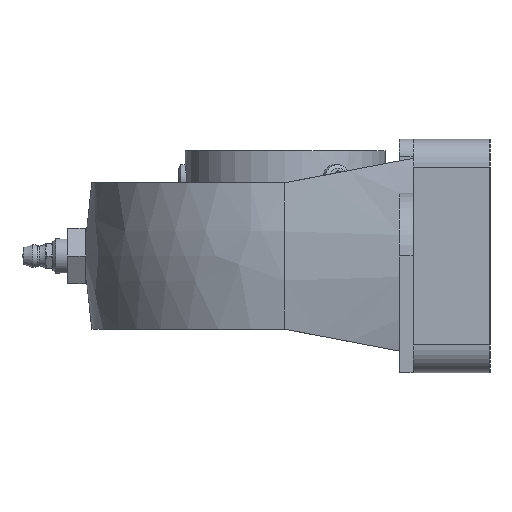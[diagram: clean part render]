
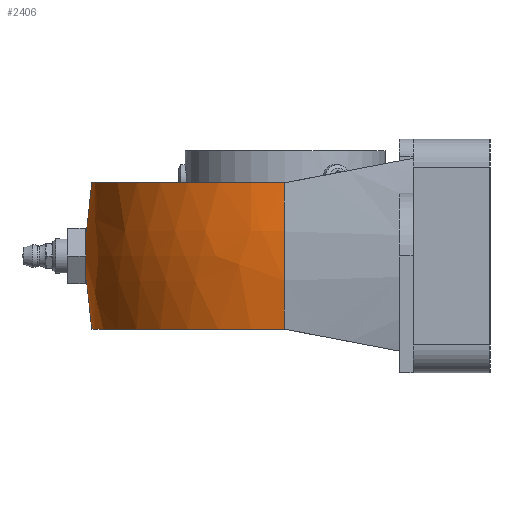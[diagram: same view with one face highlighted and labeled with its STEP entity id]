
A CAD part, left-side view. The second image highlights one B-rep face of the part: STEP entity #2406.
In plain terms, the highlighted free-form (B-spline) face has degree [2, 2] with [3, 5] control points.
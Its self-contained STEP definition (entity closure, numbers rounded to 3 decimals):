
#153=CARTESIAN_POINT('',(0.,57.224,4.188));
#154=VERTEX_POINT('',#153);
#155=CARTESIAN_POINT('',(0.,57.224,4.188));
#156=CARTESIAN_POINT('',(-0.021,57.224,4.188));
#157=CARTESIAN_POINT('',(-0.042,57.224,4.188));
#158=CARTESIAN_POINT('',(-0.099,57.224,4.187));
#159=CARTESIAN_POINT('',(-0.135,57.224,4.186));
#160=CARTESIAN_POINT('',(-0.246,57.224,4.181));
#161=CARTESIAN_POINT('',(-0.321,57.224,4.176));
#162=CARTESIAN_POINT('',(-0.848,57.222,4.126));
#163=CARTESIAN_POINT('',(-1.29,57.218,4.01));
#164=CARTESIAN_POINT('',(-2.082,57.206,3.657));
#165=CARTESIAN_POINT('',(-2.432,57.199,3.434));
#166=CARTESIAN_POINT('',(-3.149,57.181,2.812));
#167=CARTESIAN_POINT('',(-3.484,57.171,2.386));
#168=CARTESIAN_POINT('',(-3.98,57.155,1.415));
#169=CARTESIAN_POINT('',(-4.132,57.149,0.878));
#170=CARTESIAN_POINT('',(-4.216,57.146,-0.199));
#171=CARTESIAN_POINT('',(-4.158,57.148,-0.728));
#172=CARTESIAN_POINT('',(-3.858,57.159,-1.701));
#173=CARTESIAN_POINT('',(-3.633,57.166,-2.141));
#174=CARTESIAN_POINT('',(-3.064,57.183,-2.89));
#175=CARTESIAN_POINT('',(-2.737,57.192,-3.201));
#176=CARTESIAN_POINT('',(-2.045,57.206,-3.675));
#177=CARTESIAN_POINT('',(-1.694,57.212,-3.85));
#178=CARTESIAN_POINT('',(-1.114,57.219,-4.043));
#179=CARTESIAN_POINT('',(-0.899,57.221,-4.096));
#180=CARTESIAN_POINT('',(-0.538,57.223,-4.156));
#181=CARTESIAN_POINT('',(-0.393,57.224,-4.172));
#182=CARTESIAN_POINT('',(-0.201,57.224,-4.183));
#183=CARTESIAN_POINT('',(-0.154,57.224,-4.185));
#184=CARTESIAN_POINT('',(-0.077,57.224,-4.187));
#185=CARTESIAN_POINT('',(-0.047,57.224,-4.188));
#186=CARTESIAN_POINT('',(0.011,57.224,-4.188));
#187=CARTESIAN_POINT('',(0.039,57.224,-4.188));
#188=CARTESIAN_POINT('',(0.103,57.224,-4.187));
#189=CARTESIAN_POINT('',(0.14,57.224,-4.186));
#190=CARTESIAN_POINT('',(0.255,57.224,-4.181));
#191=CARTESIAN_POINT('',(0.333,57.224,-4.175));
#192=CARTESIAN_POINT('',(0.924,57.222,-4.117));
#193=CARTESIAN_POINT('',(1.423,57.216,-3.972));
#194=CARTESIAN_POINT('',(2.259,57.202,-3.552));
#195=CARTESIAN_POINT('',(2.604,57.195,-3.307));
#196=CARTESIAN_POINT('',(3.296,57.177,-2.639));
#197=CARTESIAN_POINT('',(3.61,57.167,-2.192));
#198=CARTESIAN_POINT('',(4.053,57.152,-1.19));
#199=CARTESIAN_POINT('',(4.175,57.147,-0.644));
#200=CARTESIAN_POINT('',(4.198,57.146,0.431));
#201=CARTESIAN_POINT('',(4.112,57.15,0.951));
#202=CARTESIAN_POINT('',(3.766,57.162,1.896));
#203=CARTESIAN_POINT('',(3.521,57.17,2.319));
#204=CARTESIAN_POINT('',(2.925,57.187,3.03));
#205=CARTESIAN_POINT('',(2.589,57.195,3.321));
#206=CARTESIAN_POINT('',(1.893,57.209,3.755));
#207=CARTESIAN_POINT('',(1.545,57.214,3.911));
#208=CARTESIAN_POINT('',(0.966,57.22,4.081));
#209=CARTESIAN_POINT('',(0.745,57.222,4.127));
#210=CARTESIAN_POINT('',(0.418,57.224,4.168));
#211=CARTESIAN_POINT('',(0.314,57.224,4.177));
#212=CARTESIAN_POINT('',(0.169,57.224,4.185));
#213=CARTESIAN_POINT('',(0.128,57.224,4.186));
#214=CARTESIAN_POINT('',(0.058,57.224,4.188));
#215=CARTESIAN_POINT('',(0.029,57.224,4.188));
#216=CARTESIAN_POINT('',(0.,57.224,4.188));
#217=B_SPLINE_CURVE_WITH_KNOTS('',3,(#155,#156,#157,#158,#159,#160,#161,#162,#163,#164,#165,#166,#167,#168,#169,#170,#171,#172,#173,#174,#175,#176,#177,#178,#179,#180,#181,#182,#183,#184,#185,#186,#187,#188,#189,#190,#191,#192,#193,#194,#195,#196,#197,#198,#199,#200,#201,#202,#203,#204,#205,#206,#207,#208,#209,#210,#211,#212,#213,#214,#215,#216),.UNSPECIFIED.,.T.,.U.,(4,2,2,2,2,2,2,2,2,2,2,2,2,2,2,2,2,2,2,2,2,2,2,2,2,2,2,2,2,2,4),(-2.638,-2.631,-2.62,-2.598,-2.462,-2.338,-2.177,-2.011,-1.853,-1.705,-1.571,-1.454,-1.387,-1.344,-1.33,-1.321,-1.312,-1.301,-1.278,-1.123,-0.997,-0.834,-0.668,-0.512,-0.366,-0.234,-0.12,-0.052,-0.021,-0.009,0.0),.UNSPECIFIED.);
#218=EDGE_CURVE('',#154,#154,#217,.T.);
#2159=CARTESIAN_POINT('',(-55.382,0.301,21.0));
#2160=VERTEX_POINT('',#2159);
#2167=CARTESIAN_POINT('',(-55.382,0.301,-21.0));
#2168=VERTEX_POINT('',#2167);
#2169=CARTESIAN_POINT('',(58.699,-0.319,0.));
#2170=DIRECTION('',(-0.005,-1.,0.));
#2171=DIRECTION('',(-0.97,0.005,-0.241));
#2172=AXIS2_PLACEMENT_3D('',#2169,#2170,#2171);
#2173=CIRCLE('',#2172,116.);
#2174=EDGE_CURVE('',#2160,#2168,#2173,.T.);
#2227=CARTESIAN_POINT('',(55.382,0.301,-21.0));
#2228=VERTEX_POINT('',#2227);
#2235=CARTESIAN_POINT('',(55.382,0.301,21.0));
#2236=VERTEX_POINT('',#2235);
#2237=CARTESIAN_POINT('',(-58.699,-0.319,0.));
#2238=DIRECTION('',(-0.005,1.,0.));
#2239=DIRECTION('',(0.97,0.005,-0.241));
#2240=AXIS2_PLACEMENT_3D('',#2237,#2238,#2239);
#2241=CIRCLE('',#2240,116.);
#2242=EDGE_CURVE('',#2236,#2228,#2241,.T.);
#2311=CARTESIAN_POINT('',(0.0,0.,-21.0));
#2312=DIRECTION('',(0.0,0.0,1.0));
#2313=DIRECTION('',(-1.0,0.0,0.0));
#2314=AXIS2_PLACEMENT_3D('',#2311,#2312,#2313);
#2315=CIRCLE('',#2314,55.383);
#2316=EDGE_CURVE('',#2228,#2168,#2315,.T.);
#2349=CARTESIAN_POINT('',(0.0,0.,21.));
#2350=DIRECTION('',(0.0,0.0,-1.0));
#2351=DIRECTION('',(-1.0,0.0,0.0));
#2352=AXIS2_PLACEMENT_3D('',#2349,#2350,#2351);
#2353=CIRCLE('',#2352,55.383);
#2354=EDGE_CURVE('',#2160,#2236,#2353,.T.);
#2374=CARTESIAN_POINT('',(55.383,0.29,21.));
#2375=CARTESIAN_POINT('',(59.248,0.311,0.));
#2376=CARTESIAN_POINT('',(55.383,0.29,-21.0));
#2377=CARTESIAN_POINT('',(55.094,55.383,21.));
#2378=CARTESIAN_POINT('',(58.939,59.249,0.));
#2379=CARTESIAN_POINT('',(55.094,55.383,-21.0));
#2380=CARTESIAN_POINT('',(0.,55.383,21.));
#2381=CARTESIAN_POINT('',(0.,59.249,0.));
#2382=CARTESIAN_POINT('',(0.,55.383,-21.0));
#2383=CARTESIAN_POINT('',(-55.094,55.383,21.));
#2384=CARTESIAN_POINT('',(-58.939,59.249,0.));
#2385=CARTESIAN_POINT('',(-55.094,55.383,-21.0));
#2386=CARTESIAN_POINT('',(-55.383,0.29,21.));
#2387=CARTESIAN_POINT('',(-59.248,0.311,0.));
#2388=CARTESIAN_POINT('',(-55.383,0.29,-21.0));
#2396=(BOUNDED_SURFACE()B_SPLINE_SURFACE(2,2,((#2374,#2377,#2380,#2383,#2386),(#2375,#2378,#2381,#2384,#2387),(#2376,#2379,#2382,#2385,#2388)),.UNSPECIFIED.,.F.,.F.,.U.)B_SPLINE_SURFACE_WITH_KNOTS((3,3),(3,2,3),(-0.182,0.182),(0.0,1.566,3.131),.UNSPECIFIED.)GEOMETRIC_REPRESENTATION_ITEM()RATIONAL_B_SPLINE_SURFACE(((1.0,0.709,1.0,0.709,1.0),(0.983,0.697,0.983,0.697,0.983),(1.0,0.709,1.0,0.709,1.0)))REPRESENTATION_ITEM('')SURFACE());
#2397=ORIENTED_EDGE('',*,*,#218,.T.);
#2398=EDGE_LOOP('',(#2397));
#2399=FACE_OUTER_BOUND('',#2398,.T.);
#2400=ORIENTED_EDGE('',*,*,#2316,.T.);
#2401=ORIENTED_EDGE('',*,*,#2174,.F.);
#2402=ORIENTED_EDGE('',*,*,#2354,.T.);
#2403=ORIENTED_EDGE('',*,*,#2242,.T.);
#2404=EDGE_LOOP('',(#2400,#2401,#2402,#2403));
#2405=FACE_BOUND('',#2404,.T.);
#2406=ADVANCED_FACE('',(#2399,#2405),#2396,.T.);
